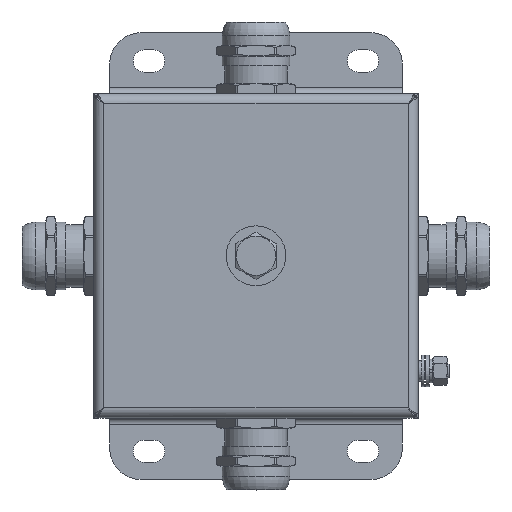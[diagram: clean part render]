
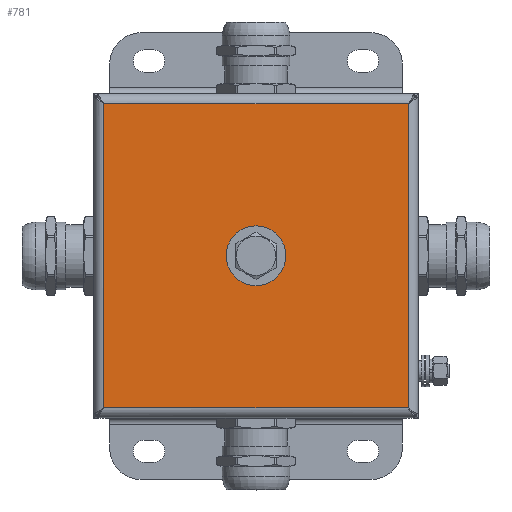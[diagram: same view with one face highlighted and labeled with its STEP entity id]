
A CAD part, top view. The second image highlights one B-rep face of the part: STEP entity #781.
In plain terms, the highlighted planar face has unit normal (0, 0, 1).
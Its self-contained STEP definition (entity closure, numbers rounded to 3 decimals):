
#781=ADVANCED_FACE('',(#5960,#5962),#5964,.T.);
#5960=FACE_BOUND('',#5961,.T.);
#5961=EDGE_LOOP('',(#9026,#9027,#9028,#9029));
#5962=FACE_BOUND('',#5963,.T.);
#5963=EDGE_LOOP('',(#9030));
#5964=PLANE('',#5965);
#5965=AXIS2_PLACEMENT_3D('',#5966,#5967,#5968);
#5966=CARTESIAN_POINT('',(0.,0.,61.7));
#5967=DIRECTION('',(0.,-0.,1.));
#5968=DIRECTION('',(0.,1.,0.));
#9026=ORIENTED_EDGE('',*,*,#11039,.T.);
#9027=ORIENTED_EDGE('',*,*,#11040,.T.);
#9028=ORIENTED_EDGE('',*,*,#11041,.T.);
#9029=ORIENTED_EDGE('',*,*,#11042,.T.);
#9030=ORIENTED_EDGE('',*,*,#10350,.T.);
#10350=EDGE_CURVE('',#13730,#13730,#13731,.F.);
#11039=EDGE_CURVE('',#14096,#14097,#14098,.T.);
#11040=EDGE_CURVE('',#14097,#14099,#14100,.T.);
#11041=EDGE_CURVE('',#14099,#14101,#14102,.T.);
#11042=EDGE_CURVE('',#14101,#14096,#14103,.T.);
#13730=VERTEX_POINT('',#15095);
#13731=CIRCLE('',#15096,8.5);
#14096=VERTEX_POINT('',#15939);
#14097=VERTEX_POINT('',#15940);
#14098=LINE('',#15941,#15942);
#14099=VERTEX_POINT('',#15944);
#14100=LINE('',#15945,#15946);
#14101=VERTEX_POINT('',#15948);
#14102=LINE('',#15949,#15950);
#14103=LINE('',#15952,#15953);
#15095=CARTESIAN_POINT('',(-8.5,0.,61.7));
#15096=AXIS2_PLACEMENT_3D('',#15097,#15098,#15099);
#15097=CARTESIAN_POINT('',(0.,0.,61.7));
#15098=DIRECTION('',(0.,-0.,1.));
#15099=DIRECTION('',(-1.,0.,0.));
#15939=CARTESIAN_POINT('',(48.3,48.3,61.7));
#15940=CARTESIAN_POINT('',(-48.3,48.3,61.7));
#15941=CARTESIAN_POINT('',(48.3,48.3,61.7));
#15942=VECTOR('',#15943,1.);
#15943=DIRECTION('',(-1.,0.,0.));
#15944=CARTESIAN_POINT('',(-48.3,-48.3,61.7));
#15945=CARTESIAN_POINT('',(-48.3,48.3,61.7));
#15946=VECTOR('',#15947,1.);
#15947=DIRECTION('',(0.,-1.,0.));
#15948=CARTESIAN_POINT('',(48.3,-48.3,61.7));
#15949=CARTESIAN_POINT('',(-48.3,-48.3,61.7));
#15950=VECTOR('',#15951,1.);
#15951=DIRECTION('',(1.,0.,0.));
#15952=CARTESIAN_POINT('',(48.3,-48.3,61.7));
#15953=VECTOR('',#15954,1.);
#15954=DIRECTION('',(0.,1.,0.));
